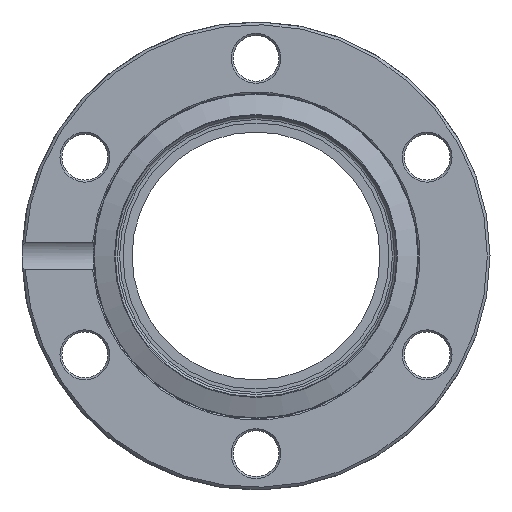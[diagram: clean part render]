
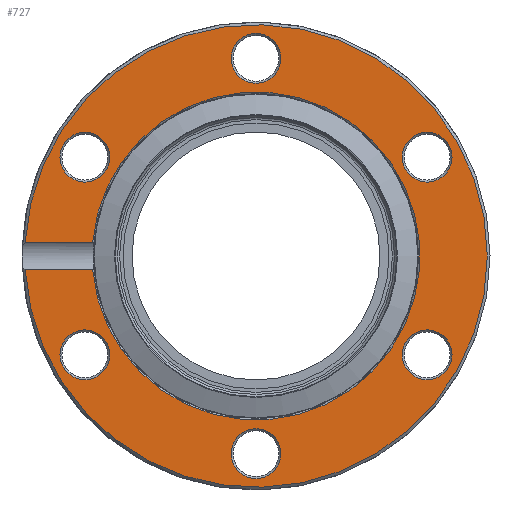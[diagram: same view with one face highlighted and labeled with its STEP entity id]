
A CAD part, left-side view. The second image highlights one B-rep face of the part: STEP entity #727.
In plain terms, the highlighted planar face has unit normal (-1, 0, 0).
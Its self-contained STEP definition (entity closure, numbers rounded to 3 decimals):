
#329=CARTESIAN_POINT('',(-126.0,24.264,2.04));
#330=VERTEX_POINT('',#329);
#351=CARTESIAN_POINT('',(-126.0,24.264,-2.04));
#352=VERTEX_POINT('',#351);
#362=CARTESIAN_POINT('',(-126.,0.,0.));
#363=DIRECTION('',(-1.0,0.0,0.0));
#364=DIRECTION('',(0.0,-1.0,0.0));
#365=AXIS2_PLACEMENT_3D('',#362,#363,#364);
#366=CIRCLE('',#365,24.35);
#367=EDGE_CURVE('',#352,#330,#366,.T.);
#546=CARTESIAN_POINT('',(-126.,34.289,2.04));
#547=VERTEX_POINT('',#546);
#555=CARTESIAN_POINT('',(-126.,34.289,-2.04));
#556=VERTEX_POINT('',#555);
#557=CARTESIAN_POINT('',(-126.,0.,0.));
#558=DIRECTION('',(1.0,0.0,0.0));
#559=DIRECTION('',(0.0,-1.0,0.0));
#560=AXIS2_PLACEMENT_3D('',#557,#558,#559);
#561=CIRCLE('',#560,34.35);
#562=EDGE_CURVE('',#547,#556,#561,.T.);
#631=CARTESIAN_POINT('',(-126.,34.289,2.04));
#632=DIRECTION('',(0.0,-1.0,0.0));
#633=VECTOR('',#632,10.025);
#634=LINE('',#631,#633);
#635=EDGE_CURVE('',#547,#330,#634,.T.);
#641=CARTESIAN_POINT('',(-126.,24.264,-2.04));
#642=DIRECTION('',(0.0,1.0,0.0));
#643=VECTOR('',#642,10.025);
#644=LINE('',#641,#643);
#645=EDGE_CURVE('',#352,#556,#644,.T.);
#650=CARTESIAN_POINT('',(-126.0,29.45,0.));
#651=DIRECTION('',(-1.0,0.0,0.0));
#652=DIRECTION('',(0.0,0.0,1.0));
#653=AXIS2_PLACEMENT_3D('',#650,#651,#652);
#654=PLANE('',#653);
#655=ORIENTED_EDGE('',*,*,#367,.F.);
#656=ORIENTED_EDGE('',*,*,#645,.T.);
#657=ORIENTED_EDGE('',*,*,#562,.F.);
#658=ORIENTED_EDGE('',*,*,#635,.T.);
#659=EDGE_LOOP('',(#655,#656,#657,#658));
#660=FACE_OUTER_BOUND('',#659,.T.);
#661=CARTESIAN_POINT('',(-126.,-28.622,12.825));
#662=VERTEX_POINT('',#661);
#663=CARTESIAN_POINT('',(-126.,-25.418,14.675));
#664=DIRECTION('',(-1.0,0.,0.));
#665=DIRECTION('',(0.,0.866,0.5));
#666=AXIS2_PLACEMENT_3D('',#663,#664,#665);
#667=CIRCLE('',#666,3.7);
#668=EDGE_CURVE('',#662,#662,#667,.T.);
#669=ORIENTED_EDGE('',*,*,#668,.F.);
#670=EDGE_LOOP('',(#669));
#671=FACE_BOUND('',#670,.T.);
#672=CARTESIAN_POINT('',(-126.,25.418,18.375));
#673=VERTEX_POINT('',#672);
#674=CARTESIAN_POINT('',(-126.0,25.418,14.675));
#675=DIRECTION('',(-1.0,0.0,0.0));
#676=DIRECTION('',(0.0,0.0,-1.0));
#677=AXIS2_PLACEMENT_3D('',#674,#675,#676);
#678=CIRCLE('',#677,3.7);
#679=EDGE_CURVE('',#673,#673,#678,.T.);
#680=ORIENTED_EDGE('',*,*,#679,.F.);
#681=EDGE_LOOP('',(#680));
#682=FACE_BOUND('',#681,.T.);
#683=CARTESIAN_POINT('',(-126.,-3.204,31.2));
#684=VERTEX_POINT('',#683);
#685=CARTESIAN_POINT('',(-126.0,0.,29.35));
#686=DIRECTION('',(-1.0,0.,0.));
#687=DIRECTION('',(0.,0.866,-0.5));
#688=AXIS2_PLACEMENT_3D('',#685,#686,#687);
#689=CIRCLE('',#688,3.7);
#690=EDGE_CURVE('',#684,#684,#689,.T.);
#691=ORIENTED_EDGE('',*,*,#690,.F.);
#692=EDGE_LOOP('',(#691));
#693=FACE_BOUND('',#692,.T.);
#694=CARTESIAN_POINT('',(-126.,-25.418,-18.375));
#695=VERTEX_POINT('',#694);
#696=CARTESIAN_POINT('',(-126.,-25.418,-14.675));
#697=DIRECTION('',(-1.0,0.0,0.0));
#698=DIRECTION('',(0.0,0.0,1.0));
#699=AXIS2_PLACEMENT_3D('',#696,#697,#698);
#700=CIRCLE('',#699,3.7);
#701=EDGE_CURVE('',#695,#695,#700,.T.);
#702=ORIENTED_EDGE('',*,*,#701,.F.);
#703=EDGE_LOOP('',(#702));
#704=FACE_BOUND('',#703,.T.);
#705=CARTESIAN_POINT('',(-126.0,28.622,-12.825));
#706=VERTEX_POINT('',#705);
#707=CARTESIAN_POINT('',(-126.0,25.418,-14.675));
#708=DIRECTION('',(-1.0,0.,0.));
#709=DIRECTION('',(0.,-0.866,-0.5));
#710=AXIS2_PLACEMENT_3D('',#707,#708,#709);
#711=CIRCLE('',#710,3.7);
#712=EDGE_CURVE('',#706,#706,#711,.T.);
#713=ORIENTED_EDGE('',*,*,#712,.F.);
#714=EDGE_LOOP('',(#713));
#715=FACE_BOUND('',#714,.T.);
#716=CARTESIAN_POINT('',(-126.,3.204,-31.2));
#717=VERTEX_POINT('',#716);
#718=CARTESIAN_POINT('',(-126.,0.,-29.35));
#719=DIRECTION('',(-1.0,0.,0.));
#720=DIRECTION('',(0.,-0.866,0.5));
#721=AXIS2_PLACEMENT_3D('',#718,#719,#720);
#722=CIRCLE('',#721,3.7);
#723=EDGE_CURVE('',#717,#717,#722,.T.);
#724=ORIENTED_EDGE('',*,*,#723,.F.);
#725=EDGE_LOOP('',(#724));
#726=FACE_BOUND('',#725,.T.);
#727=ADVANCED_FACE('',(#660,#671,#682,#693,#704,#715,#726),#654,.T.);
